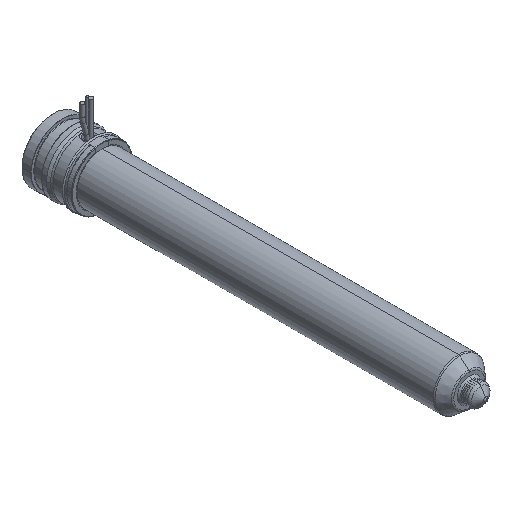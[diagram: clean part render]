
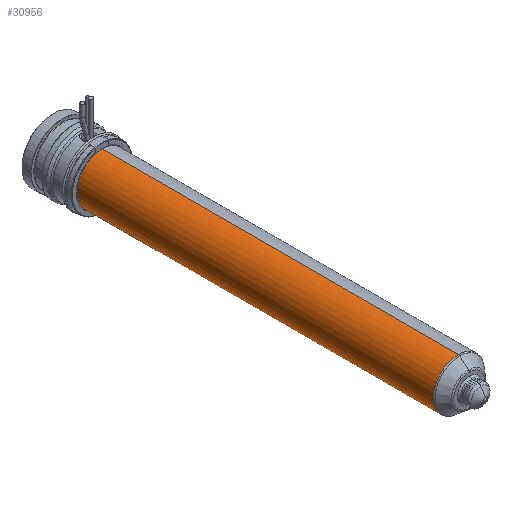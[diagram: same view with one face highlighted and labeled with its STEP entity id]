
A CAD part, isometric view. The second image highlights one B-rep face of the part: STEP entity #30956.
In plain terms, the highlighted cylindrical face has radius 12 mm (diameter 24 mm), a partial arc.
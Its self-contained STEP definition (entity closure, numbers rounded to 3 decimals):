
#30441=CARTESIAN_POINT('',(0.,-24.,0.));
#30442=DIRECTION('',(0.,1.,0.));
#30443=DIRECTION('',(0.,0.,-1.));
#30444=AXIS2_PLACEMENT_3D('',#30441,#30442,#30443);
#30449=DIRECTION('',(0.,1.,0.));
#30450=VECTOR('',#30449,169.736);
#30451=CARTESIAN_POINT('',(0.,-193.736,12.));
#30452=LINE('',#30451,#30450);
#30464=DIRECTION('',(0.,1.,0.));
#30465=VECTOR('',#30464,169.736);
#30466=CARTESIAN_POINT('',(0.,-193.736,-12.));
#30467=LINE('',#30466,#30465);
#30495=CARTESIAN_POINT('',(0.,-193.736,0.));
#30496=DIRECTION('',(0.,-1.,0.));
#30497=DIRECTION('',(0.,0.,1.));
#30498=AXIS2_PLACEMENT_3D('',#30495,#30496,#30497);
#30825=CARTESIAN_POINT('',(0.,-193.736,12.));
#30826=CARTESIAN_POINT('',(0.,-24.,12.));
#30827=VERTEX_POINT('',#30825);
#30828=VERTEX_POINT('',#30826);
#30829=CARTESIAN_POINT('',(0.,-193.736,-12.));
#30830=CARTESIAN_POINT('',(0.,-24.,-12.));
#30831=VERTEX_POINT('',#30829);
#30832=VERTEX_POINT('',#30830);
#30942=CARTESIAN_POINT('',(0.,-10.625,0.));
#30943=DIRECTION('',(0.,-1.,0.));
#30944=DIRECTION('',(0.,0.,1.));
#30945=AXIS2_PLACEMENT_3D('',#30942,#30943,#30944);
#30946=CYLINDRICAL_SURFACE('',#30945,12.);
#30948=ORIENTED_EDGE('',*,*,#30947,.F.);
#30950=ORIENTED_EDGE('',*,*,#30949,.T.);
#30952=ORIENTED_EDGE('',*,*,#30951,.T.);
#30953=ORIENTED_EDGE('',*,*,#30935,.T.);
#30954=EDGE_LOOP('',(#30948,#30950,#30952,#30953));
#30955=FACE_OUTER_BOUND('',#30954,.F.);
#30956=ADVANCED_FACE('',(#30955),#30946,.T.);
#30445=CIRCLE('',#30444,12.);
#30499=CIRCLE('',#30498,12.);
#30935=EDGE_CURVE('',#30832,#30828,#30445,.T.);
#30947=EDGE_CURVE('',#30827,#30828,#30452,.T.);
#30949=EDGE_CURVE('',#30827,#30831,#30499,.T.);
#30951=EDGE_CURVE('',#30831,#30832,#30467,.T.);
